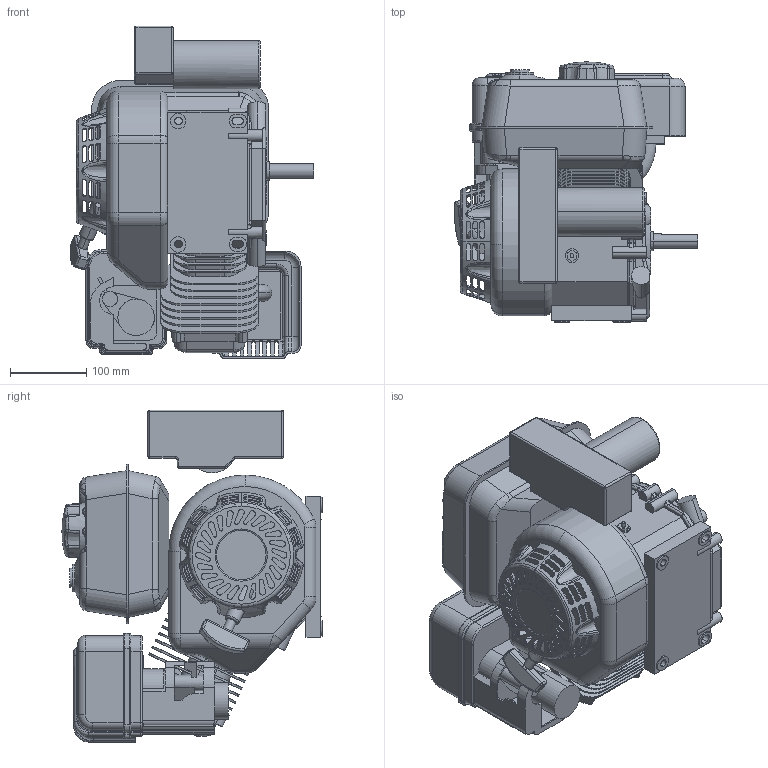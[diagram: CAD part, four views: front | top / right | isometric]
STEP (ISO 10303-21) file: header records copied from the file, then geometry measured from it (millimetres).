
FILE_DESCRIPTION (( 'STEP AP203' ), '1' );
FILE_NAME ('2541-0054.STEP', '2014-04-03T20:40:45', ( '' ), ( '' ), 'SwSTEP 2.0', 'SolidWorks 2012', '' );
FILE_SCHEMA (( 'CONFIG_CONTROL_DESIGN' ));
Products named in the file (1): 2541-0054
Bounding box: 319.73 x 341.62 x 436 mm (x, y, z)
Volume: 15462635.3 mm3; surface area: 1173341.6 mm2
Topology: 7 solids, 7 shells, 1781 faces, 4701 edges, 2950 vertices
Faces by surface type: cylinder 766, plane 627, torus 137, bspline 132, cone 74, sphere 45
Entity records: 67273 total; most frequent: CARTESIAN_POINT 23735, ORIENTED_EDGE 9300, DIRECTION 9047, EDGE_CURVE 4650, AXIS2_PLACEMENT_3D 3444, VERTEX_POINT 2942, LINE 2159, VECTOR 2159
